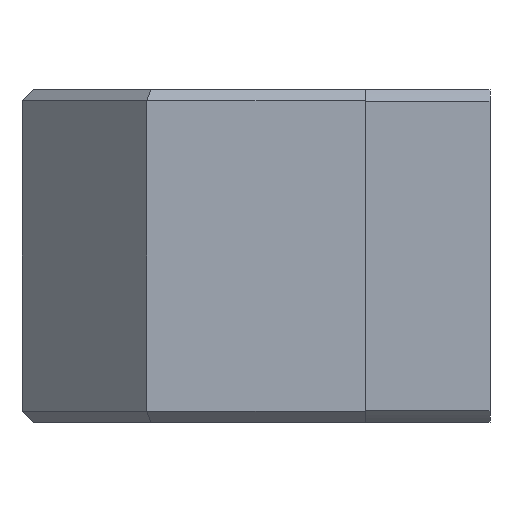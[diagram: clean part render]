
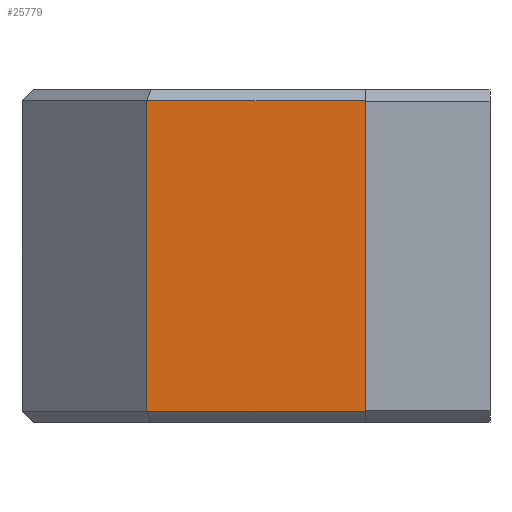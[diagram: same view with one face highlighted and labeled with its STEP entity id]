
A CAD part, front view. The second image highlights one B-rep face of the part: STEP entity #25779.
In plain terms, the highlighted planar face has unit normal (0, -1, 0).
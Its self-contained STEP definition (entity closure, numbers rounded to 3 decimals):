
#80 = FACE_OUTER_BOUND ( 'NONE', #28897, .T. ) ;
#93 = DIRECTION ( 'NONE',  ( 0., 1., 0. ) ) ;
#2983 = DIRECTION ( 'NONE',  ( 0., 0., 1. ) ) ;
#3244 = VERTEX_POINT ( 'NONE', #31475 ) ;
#3753 = CARTESIAN_POINT ( 'NONE',  ( 124., 0., 0. ) ) ;
#4225 = CARTESIAN_POINT ( 'NONE',  ( 45., 0., 116. ) ) ;
#4842 = PLANE ( 'NONE',  #27761 ) ;
#5221 = DIRECTION ( 'NONE',  ( -1., 0., 0. ) ) ;
#5884 = CARTESIAN_POINT ( 'NONE',  ( 124., 0., 116. ) ) ;
#6200 = DIRECTION ( 'NONE',  ( 0., 0., 1. ) ) ;
#6501 = VECTOR ( 'NONE', #5221, 1000. ) ;
#6534 = LINE ( 'NONE', #24983, #18797 ) ;
#6691 = VERTEX_POINT ( 'NONE', #5884 ) ;
#8193 = VECTOR ( 'NONE', #6200, 1000. ) ;
#8550 = DIRECTION ( 'NONE',  ( -1., 0., 0. ) ) ;
#14418 = DIRECTION ( 'NONE',  ( 0., 0., 1. ) ) ;
#15861 = EDGE_CURVE ( 'NONE', #3244, #31665, #6534, .T. ) ;
#16443 = ORIENTED_EDGE ( 'NONE', *, *, #24629, .T. ) ;
#18394 = EDGE_CURVE ( 'NONE', #27072, #3244, #30150, .T. ) ;
#18797 = VECTOR ( 'NONE', #2983, 1000. ) ;
#19578 = CARTESIAN_POINT ( 'NONE',  ( 0., 0., 4. ) ) ;
#20052 = LINE ( 'NONE', #3753, #8193 ) ;
#20614 = ORIENTED_EDGE ( 'NONE', *, *, #18394, .F. ) ;
#22597 = ORIENTED_EDGE ( 'NONE', *, *, #15861, .F. ) ;
#24082 = CARTESIAN_POINT ( 'NONE',  ( 0., 0., 120. ) ) ;
#24629 = EDGE_CURVE ( 'NONE', #6691, #31665, #29255, .T. ) ;
#24983 = CARTESIAN_POINT ( 'NONE',  ( 45., 0., 120. ) ) ;
#25317 = CARTESIAN_POINT ( 'NONE',  ( 0., 0., 116. ) ) ;
#25779 = ADVANCED_FACE ( 'NONE', ( #80 ), #4842, .F. ) ;
#27072 = VERTEX_POINT ( 'NONE', #27120 ) ;
#27120 = CARTESIAN_POINT ( 'NONE',  ( 124., 0., 4. ) ) ;
#27761 = AXIS2_PLACEMENT_3D ( 'NONE', #24082, #93, #14418 ) ;
#28897 = EDGE_LOOP ( 'NONE', ( #20614, #31354, #16443, #22597 ) ) ;
#29255 = LINE ( 'NONE', #25317, #30774 ) ;
#30150 = LINE ( 'NONE', #19578, #6501 ) ;
#30222 = EDGE_CURVE ( 'NONE', #27072, #6691, #20052, .T. ) ;
#30774 = VECTOR ( 'NONE', #8550, 1000. ) ;
#31354 = ORIENTED_EDGE ( 'NONE', *, *, #30222, .T. ) ;
#31475 = CARTESIAN_POINT ( 'NONE',  ( 45., 0., 4. ) ) ;
#31665 = VERTEX_POINT ( 'NONE', #4225 ) ;
